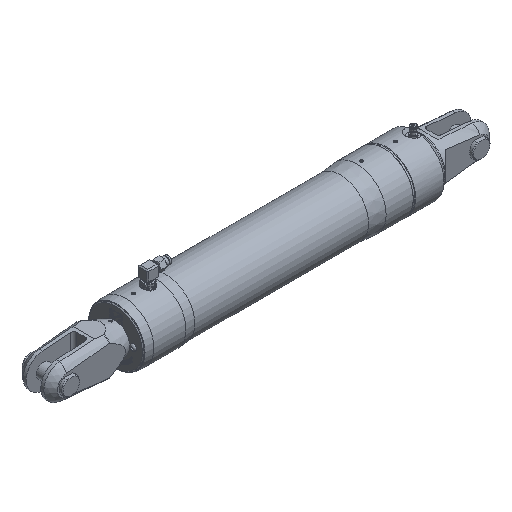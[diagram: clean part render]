
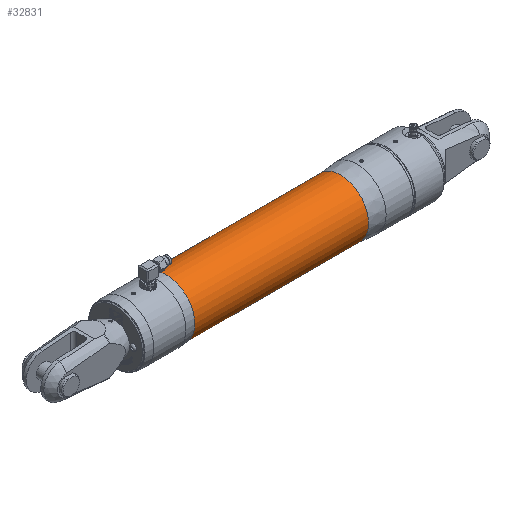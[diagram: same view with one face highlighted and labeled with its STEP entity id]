
A CAD part, isometric view. The second image highlights one B-rep face of the part: STEP entity #32831.
In plain terms, the highlighted cylindrical face has radius 49.6 mm (diameter 99.2 mm), a full revolution.
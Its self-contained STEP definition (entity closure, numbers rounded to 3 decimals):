
#3450=FACE_OUTER_BOUND('',#5241,.T.);
#5241=EDGE_LOOP('',(#22233,#22234,#22235,#22236,#22237,#22238));
#7196=LINE('',#43861,#10154);
#10154=VECTOR('',#37043,49.6);
#13060=CIRCLE('',#34803,49.6);
#13061=CIRCLE('',#34804,49.6);
#13063=CIRCLE('',#34807,49.6);
#13064=CIRCLE('',#34808,49.6);
#13648=VERTEX_POINT('',#43853);
#13649=VERTEX_POINT('',#43855);
#13650=VERTEX_POINT('',#43860);
#13651=VERTEX_POINT('',#43862);
#16983=EDGE_CURVE('',#13649,#13648,#13060,.T.);
#16984=EDGE_CURVE('',#13648,#13649,#13061,.T.);
#16986=EDGE_CURVE('',#13648,#13650,#7196,.T.);
#16987=EDGE_CURVE('',#13651,#13650,#13063,.T.);
#16988=EDGE_CURVE('',#13650,#13651,#13064,.T.);
#22233=ORIENTED_EDGE('',*,*,#16983,.T.);
#22234=ORIENTED_EDGE('',*,*,#16986,.T.);
#22235=ORIENTED_EDGE('',*,*,#16987,.F.);
#22236=ORIENTED_EDGE('',*,*,#16988,.F.);
#22237=ORIENTED_EDGE('',*,*,#16986,.F.);
#22238=ORIENTED_EDGE('',*,*,#16984,.T.);
#30811=CYLINDRICAL_SURFACE('',#34806,49.6);
#32831=ADVANCED_FACE('',(#3450),#30811,.T.);
#34803=AXIS2_PLACEMENT_3D('',#43856,#37035,#37036);
#34804=AXIS2_PLACEMENT_3D('',#43857,#37037,#37038);
#34806=AXIS2_PLACEMENT_3D('',#43859,#37041,#37042);
#34807=AXIS2_PLACEMENT_3D('',#43863,#37044,#37045);
#34808=AXIS2_PLACEMENT_3D('',#43864,#37046,#37047);
#37035=DIRECTION('center_axis',(1.,0.,0.));
#37036=DIRECTION('ref_axis',(0.,0.,
-1.));
#37037=DIRECTION('center_axis',(1.,0.,0.));
#37038=DIRECTION('ref_axis',(0.,0.,
-1.));
#37041=DIRECTION('center_axis',(1.,0.,0.));
#37042=DIRECTION('ref_axis',(0.,0.,
1.));
#37043=DIRECTION('',(1.,0.,0.));
#37044=DIRECTION('center_axis',(1.,0.,0.));
#37045=DIRECTION('ref_axis',(0.,0.,
-1.));
#37046=DIRECTION('center_axis',(1.,0.,0.));
#37047=DIRECTION('ref_axis',(0.,0.,
-1.));
#43853=CARTESIAN_POINT('',(-374.234,0.,-49.6));
#43855=CARTESIAN_POINT('',(-374.234,0.,49.6));
#43856=CARTESIAN_POINT('Origin',(-374.234,0.,
0.));
#43857=CARTESIAN_POINT('Origin',(-374.234,0.,
0.));
#43859=CARTESIAN_POINT('Origin',(-220.618,0.,
0.));
#43860=CARTESIAN_POINT('',(-67.003,0.,-49.6));
#43861=CARTESIAN_POINT('',(-220.618,0.,-49.6));
#43862=CARTESIAN_POINT('',(-67.003,0.,49.6));
#43863=CARTESIAN_POINT('Origin',(-67.003,0.,
0.));
#43864=CARTESIAN_POINT('Origin',(-67.003,0.,
0.));
